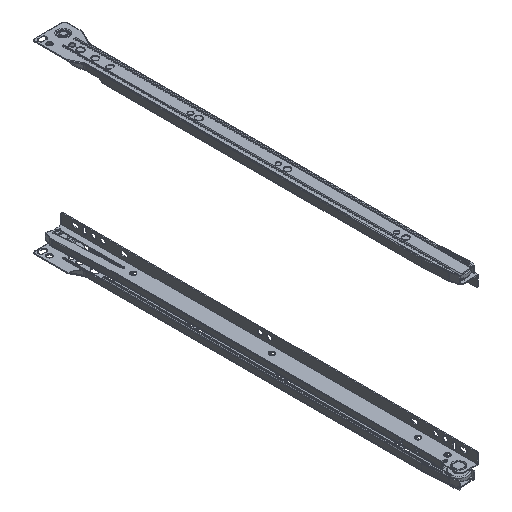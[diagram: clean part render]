
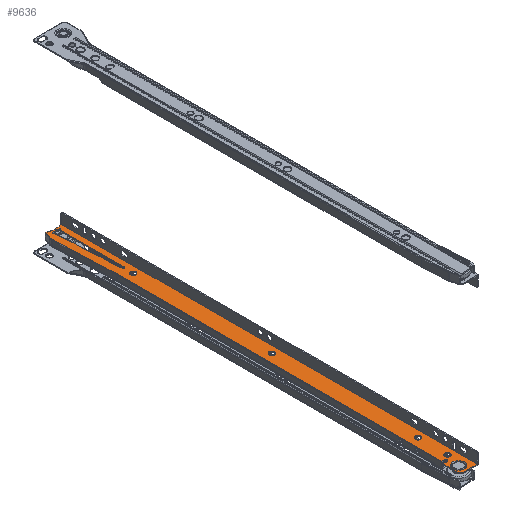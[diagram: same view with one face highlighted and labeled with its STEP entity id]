
A CAD part, isometric view. The second image highlights one B-rep face of the part: STEP entity #9636.
In plain terms, the highlighted planar face has unit normal (0, 0, 1) as drawn and (0, 0, -1) by its records, which use the part's own axes.
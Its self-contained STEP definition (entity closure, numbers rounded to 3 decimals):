
#515=FACE_BOUND('',#2344,.T.);
#516=FACE_BOUND('',#2345,.T.);
#517=FACE_BOUND('',#2346,.T.);
#518=FACE_BOUND('',#2347,.T.);
#519=FACE_BOUND('',#2348,.T.);
#520=FACE_BOUND('',#2349,.T.);
#844=CIRCLE('',#10461,2.75);
#846=CIRCLE('',#10464,17.5);
#872=CIRCLE('',#10506,9.5);
#873=CIRCLE('',#10513,1.);
#874=CIRCLE('',#10514,1.);
#875=CIRCLE('',#10515,1.);
#876=CIRCLE('',#10516,3.);
#877=CIRCLE('',#10517,2.75);
#878=CIRCLE('',#10518,2.75);
#879=CIRCLE('',#10519,6.25);
#880=CIRCLE('',#10520,2.75);
#881=CIRCLE('',#10521,1.03);
#1124=ELLIPSE('',#10522,4.383,1.);
#1674=FACE_OUTER_BOUND('',#2343,.T.);
#2343=EDGE_LOOP('',(#8002,#8003,#8004,#8005,#8006,#8007,#8008,#8009,#8010,
#8011,#8012,#8013,#8014,#8015,#8016,#8017,#8018));
#2344=EDGE_LOOP('',(#8019));
#2345=EDGE_LOOP('',(#8020));
#2346=EDGE_LOOP('',(#8021));
#2347=EDGE_LOOP('',(#8022));
#2348=EDGE_LOOP('',(#8023));
#2349=EDGE_LOOP('',(#8024,#8025,#8026,#8027));
#3117=LINE('',#15762,#3906);
#3134=LINE('',#15828,#3923);
#3151=LINE('',#15889,#3940);
#3154=LINE('',#15901,#3943);
#3159=LINE('',#15910,#3948);
#3161=LINE('',#15917,#3950);
#3162=LINE('',#15921,#3951);
#3163=LINE('',#15925,#3952);
#3164=LINE('',#15929,#3953);
#3165=LINE('',#15931,#3954);
#3166=LINE('',#15932,#3955);
#3167=LINE('',#15945,#3956);
#3168=LINE('',#15948,#3957);
#3906=VECTOR('',#12518,10.);
#3923=VECTOR('',#12575,10.);
#3940=VECTOR('',#12638,10.);
#3943=VECTOR('',#12653,10.);
#3948=VECTOR('',#12664,10.);
#3950=VECTOR('',#12672,10.);
#3951=VECTOR('',#12675,10.);
#3952=VECTOR('',#12678,10.);
#3953=VECTOR('',#12681,10.);
#3954=VECTOR('',#12682,10.);
#3955=VECTOR('',#12683,10.);
#3956=VECTOR('',#12694,10.);
#3957=VECTOR('',#12697,10.);
#4722=VERTEX_POINT('',#15733);
#4732=VERTEX_POINT('',#15760);
#4734=VERTEX_POINT('',#15766);
#4735=VERTEX_POINT('',#15769);
#4738=VERTEX_POINT('',#15774);
#4761=VERTEX_POINT('',#15826);
#4782=VERTEX_POINT('',#15888);
#4785=VERTEX_POINT('',#15895);
#4786=VERTEX_POINT('',#15908);
#4787=VERTEX_POINT('',#15914);
#4788=VERTEX_POINT('',#15916);
#4789=VERTEX_POINT('',#15918);
#4790=VERTEX_POINT('',#15920);
#4791=VERTEX_POINT('',#15922);
#4792=VERTEX_POINT('',#15924);
#4793=VERTEX_POINT('',#15926);
#4794=VERTEX_POINT('',#15928);
#4795=VERTEX_POINT('',#15930);
#4796=VERTEX_POINT('',#15933);
#4797=VERTEX_POINT('',#15935);
#4798=VERTEX_POINT('',#15937);
#4799=VERTEX_POINT('',#15939);
#4800=VERTEX_POINT('',#15941);
#4801=VERTEX_POINT('',#15942);
#4802=VERTEX_POINT('',#15944);
#4803=VERTEX_POINT('',#15946);
#5861=EDGE_CURVE('',#4722,#4732,#3117,.T.);
#5863=EDGE_CURVE('',#4734,#4734,#844,.T.);
#5867=EDGE_CURVE('',#4738,#4735,#846,.T.);
#5894=EDGE_CURVE('',#4761,#4738,#3134,.T.);
#5923=EDGE_CURVE('',#4782,#4722,#3151,.T.);
#5928=EDGE_CURVE('',#4785,#4782,#872,.T.);
#5930=EDGE_CURVE('',#4761,#4785,#3154,.T.);
#5935=EDGE_CURVE('',#4786,#4732,#3159,.T.);
#5937=EDGE_CURVE('',#4787,#4786,#873,.T.);
#5938=EDGE_CURVE('',#4788,#4787,#3161,.T.);
#5939=EDGE_CURVE('',#4789,#4788,#874,.T.);
#5940=EDGE_CURVE('',#4790,#4789,#3162,.T.);
#5941=EDGE_CURVE('',#4791,#4790,#875,.T.);
#5942=EDGE_CURVE('',#4792,#4791,#3163,.T.);
#5943=EDGE_CURVE('',#4793,#4792,#876,.T.);
#5944=EDGE_CURVE('',#4794,#4793,#3164,.T.);
#5945=EDGE_CURVE('',#4795,#4794,#3165,.T.);
#5946=EDGE_CURVE('',#4735,#4795,#3166,.T.);
#5947=EDGE_CURVE('',#4796,#4796,#877,.T.);
#5948=EDGE_CURVE('',#4797,#4797,#878,.T.);
#5949=EDGE_CURVE('',#4798,#4798,#879,.T.);
#5950=EDGE_CURVE('',#4799,#4799,#880,.T.);
#5951=EDGE_CURVE('',#4800,#4801,#881,.T.);
#5952=EDGE_CURVE('',#4802,#4800,#3167,.T.);
#5953=EDGE_CURVE('',#4803,#4802,#1124,.T.);
#5954=EDGE_CURVE('',#4801,#4803,#3168,.T.);
#8002=ORIENTED_EDGE('',*,*,#5867,.F.);
#8003=ORIENTED_EDGE('',*,*,#5894,.F.);
#8004=ORIENTED_EDGE('',*,*,#5930,.T.);
#8005=ORIENTED_EDGE('',*,*,#5928,.T.);
#8006=ORIENTED_EDGE('',*,*,#5923,.T.);
#8007=ORIENTED_EDGE('',*,*,#5861,.T.);
#8008=ORIENTED_EDGE('',*,*,#5935,.F.);
#8009=ORIENTED_EDGE('',*,*,#5937,.F.);
#8010=ORIENTED_EDGE('',*,*,#5938,.F.);
#8011=ORIENTED_EDGE('',*,*,#5939,.F.);
#8012=ORIENTED_EDGE('',*,*,#5940,.F.);
#8013=ORIENTED_EDGE('',*,*,#5941,.F.);
#8014=ORIENTED_EDGE('',*,*,#5942,.F.);
#8015=ORIENTED_EDGE('',*,*,#5943,.F.);
#8016=ORIENTED_EDGE('',*,*,#5944,.F.);
#8017=ORIENTED_EDGE('',*,*,#5945,.F.);
#8018=ORIENTED_EDGE('',*,*,#5946,.F.);
#8019=ORIENTED_EDGE('',*,*,#5863,.F.);
#8020=ORIENTED_EDGE('',*,*,#5947,.F.);
#8021=ORIENTED_EDGE('',*,*,#5948,.F.);
#8022=ORIENTED_EDGE('',*,*,#5949,.F.);
#8023=ORIENTED_EDGE('',*,*,#5950,.F.);
#8024=ORIENTED_EDGE('',*,*,#5951,.F.);
#8025=ORIENTED_EDGE('',*,*,#5952,.F.);
#8026=ORIENTED_EDGE('',*,*,#5953,.F.);
#8027=ORIENTED_EDGE('',*,*,#5954,.F.);
#9202=PLANE('',#10512);
#9636=ADVANCED_FACE('',(#1674,#515,#516,#517,#518,#519,#520),#9202,.T.);
#10461=AXIS2_PLACEMENT_3D('',#15767,#12523,#12524);
#10464=AXIS2_PLACEMENT_3D('',#15776,#12531,#12532);
#10506=AXIS2_PLACEMENT_3D('',#15898,#12648,#12649);
#10512=AXIS2_PLACEMENT_3D('',#15913,#12668,#12669);
#10513=AXIS2_PLACEMENT_3D('',#15915,#12670,#12671);
#10514=AXIS2_PLACEMENT_3D('',#15919,#12673,#12674);
#10515=AXIS2_PLACEMENT_3D('',#15923,#12676,#12677);
#10516=AXIS2_PLACEMENT_3D('',#15927,#12679,#12680);
#10517=AXIS2_PLACEMENT_3D('',#15934,#12684,#12685);
#10518=AXIS2_PLACEMENT_3D('',#15936,#12686,#12687);
#10519=AXIS2_PLACEMENT_3D('',#15938,#12688,#12689);
#10520=AXIS2_PLACEMENT_3D('',#15940,#12690,#12691);
#10521=AXIS2_PLACEMENT_3D('',#15943,#12692,#12693);
#10522=AXIS2_PLACEMENT_3D('',#15947,#12695,#12696);
#12518=DIRECTION('',(-1.,0.,0.));
#12523=DIRECTION('center_axis',(0.,0.,-1.));
#12524=DIRECTION('ref_axis',(-1.,0.,0.));
#12531=DIRECTION('center_axis',(0.,0.,-1.));
#12532=DIRECTION('ref_axis',(-1.,0.,0.));
#12575=DIRECTION('',(0.,1.,0.));
#12638=DIRECTION('',(-0.999,0.04,0.));
#12648=DIRECTION('center_axis',(0.,0.,-1.));
#12649=DIRECTION('ref_axis',(0.141,-0.99,0.));
#12653=DIRECTION('',(-0.948,-0.318,0.));
#12664=DIRECTION('',(0.,-1.,0.));
#12668=DIRECTION('center_axis',(0.,0.,-1.));
#12669=DIRECTION('ref_axis',(1.,0.,0.));
#12670=DIRECTION('center_axis',(0.,0.,-1.));
#12671=DIRECTION('ref_axis',(0.,1.,0.));
#12672=DIRECTION('',(1.,0.,0.));
#12673=DIRECTION('center_axis',(0.,0.,-1.));
#12674=DIRECTION('ref_axis',(-1.,0.,0.));
#12675=DIRECTION('',(0.,1.,0.));
#12676=DIRECTION('center_axis',(0.,0.,1.));
#12677=DIRECTION('ref_axis',(-1.,0.,0.));
#12678=DIRECTION('',(1.,0.,0.));
#12679=DIRECTION('center_axis',(0.,0.,1.));
#12680=DIRECTION('ref_axis',(0.,1.,0.));
#12681=DIRECTION('',(0.,-1.,0.));
#12682=DIRECTION('',(-1.,0.,0.));
#12683=DIRECTION('',(0.,1.,0.));
#12684=DIRECTION('center_axis',(0.,0.,-1.));
#12685=DIRECTION('ref_axis',(-1.,0.,0.));
#12686=DIRECTION('center_axis',(0.,0.,-1.));
#12687=DIRECTION('ref_axis',(-1.,0.,0.));
#12688=DIRECTION('center_axis',(0.,0.,-1.));
#12689=DIRECTION('ref_axis',(-1.,0.,0.));
#12690=DIRECTION('center_axis',(0.,0.,-1.));
#12691=DIRECTION('ref_axis',(-1.,0.,0.));
#12692=DIRECTION('center_axis',(0.,0.,-1.));
#12693=DIRECTION('ref_axis',(1.,-0.03,0.));
#12694=DIRECTION('',(-0.998,0.061,0.));
#12695=DIRECTION('center_axis',(0.,0.,-1.));
#12696=DIRECTION('ref_axis',(-0.03,-1.,0.));
#12697=DIRECTION('',(1.,0.,0.));
#15733=CARTESIAN_POINT('',(343.766,-28.491,0.));
#15760=CARTESIAN_POINT('',(-9.244,-28.491,0.));
#15762=CARTESIAN_POINT('',(91.605,-28.491,0.));
#15766=CARTESIAN_POINT('',(-3.494,-18.991,0.));
#15767=CARTESIAN_POINT('Origin',(-6.244,-18.991,0.));
#15769=CARTESIAN_POINT('',(418.756,-12.193,0.));
#15774=CARTESIAN_POINT('',(418.756,-26.737,0.));
#15776=CARTESIAN_POINT('Origin',(434.674,-19.465,0.));
#15826=CARTESIAN_POINT('',(418.756,-28.464,0.));
#15828=CARTESIAN_POINT('',(418.756,-31.991,0.));
#15888=CARTESIAN_POINT('',(408.941,-31.098,0.));
#15889=CARTESIAN_POINT('',(268.071,-25.463,0.));
#15895=CARTESIAN_POINT('',(412.339,-30.614,0.));
#15898=CARTESIAN_POINT('Origin',(409.321,-21.606,0.));
#15901=CARTESIAN_POINT('',(314.185,-63.495,0.));
#15908=CARTESIAN_POINT('',(-9.244,-24.991,0.));
#15910=CARTESIAN_POINT('',(-9.244,-24.991,0.));
#15913=CARTESIAN_POINT('Origin',(192.454,-20.214,0.));
#15914=CARTESIAN_POINT('',(-10.244,-23.991,0.));
#15915=CARTESIAN_POINT('Origin',(-10.244,-24.991,0.));
#15916=CARTESIAN_POINT('',(-11.244,-23.991,0.));
#15917=CARTESIAN_POINT('',(-11.244,-23.991,0.));
#15918=CARTESIAN_POINT('',(-12.244,-24.991,0.));
#15919=CARTESIAN_POINT('Origin',(-11.244,-24.991,0.));
#15920=CARTESIAN_POINT('',(-12.244,-28.991,0.));
#15921=CARTESIAN_POINT('',(-12.244,-28.991,0.));
#15922=CARTESIAN_POINT('',(-13.244,-29.991,0.));
#15923=CARTESIAN_POINT('Origin',(-13.244,-28.991,0.));
#15924=CARTESIAN_POINT('',(-28.244,-29.991,0.));
#15925=CARTESIAN_POINT('',(-28.244,-29.991,0.));
#15926=CARTESIAN_POINT('',(-31.244,-26.991,0.));
#15927=CARTESIAN_POINT('Origin',(-28.244,-26.991,0.));
#15928=CARTESIAN_POINT('',(-31.244,-11.991,0.));
#15929=CARTESIAN_POINT('',(-31.244,-10.991,0.));
#15930=CARTESIAN_POINT('',(418.756,-11.991,0.));
#15931=CARTESIAN_POINT('',(193.105,-11.991,0.));
#15932=CARTESIAN_POINT('',(418.756,-31.991,0.));
#15933=CARTESIAN_POINT('',(28.506,-18.991,0.));
#15934=CARTESIAN_POINT('Origin',(25.756,-18.991,0.));
#15935=CARTESIAN_POINT('',(186.506,-18.991,0.));
#15936=CARTESIAN_POINT('Origin',(183.756,-18.991,0.));
#15937=CARTESIAN_POINT('',(-15.994,-22.991,0.));
#15938=CARTESIAN_POINT('Origin',(-22.244,-22.991,0.));
#15939=CARTESIAN_POINT('',(336.506,-18.991,0.));
#15940=CARTESIAN_POINT('Origin',(333.756,-18.991,0.));
#15941=CARTESIAN_POINT('',(344.693,-20.049,0.));
#15942=CARTESIAN_POINT('',(344.756,-17.992,0.));
#15943=CARTESIAN_POINT('Origin',(344.756,-19.021,0.));
#15944=CARTESIAN_POINT('',(413.929,-24.249,0.));
#15945=CARTESIAN_POINT('',(303.476,-17.549,0.));
#15946=CARTESIAN_POINT('',(414.119,-17.992,0.));
#15947=CARTESIAN_POINT('Origin',(414.724,-21.142,0.));
#15948=CARTESIAN_POINT('',(268.605,-17.992,0.));
